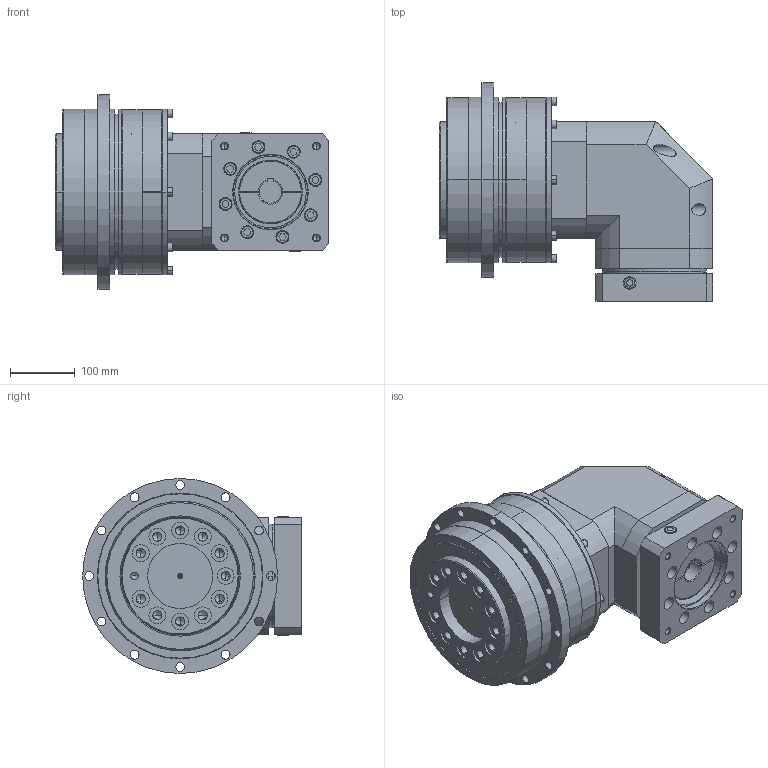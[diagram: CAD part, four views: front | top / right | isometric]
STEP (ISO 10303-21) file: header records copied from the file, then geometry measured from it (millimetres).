
FILE_DESCRIPTION (( 'STEP AP214' ), '1' );
FILE_NAME ('EVT255-L2-P2 35-114.3-200-M12.STEP', '2021-08-11T07:31:11', ( 'Admin' ), ( '' ), 'SwSTEP 2.0', 'SolidWorks 2018', '' );
FILE_SCHEMA (( 'AUTOMOTIVE_DESIGN' ));
Length unit declared in the file: millimetre
Products named in the file (35): EVT255-L2-35-114.3-200-M12(入力带键槽)_11; EVT255-L2-35-114.3-200-M12(入力带键槽)_20; EVT255-L2-35-114.3-200-M12(入力带键槽)_9; EVT255-L2-35-114.3-200-M12(入力带键槽)_8; EVT255-L2-35-114.3-200-M12(入力带键槽)_21; EVT255-L2-35-114.3-200-M12(入力带键槽)_22; EVT255-L2-35-114.3-200-M12(入力带键槽)_29; EVT255-L2-35-114.3-200-M12(入力带键槽)_33; EVT255-L2-35-114.3-200-M12(入力带键槽)_30; EVT255-L2-35-114.3-200-M12(入力带键槽)_32; EVT255-L2-35-114.3-200-M12(入力带键槽)_2; EVT255-L2-35-114.3-200-M12(入力带键槽)_14; EVT255-L2-35-114.3-200-M12(入力带键槽)_5; EVT255-L2-35-114.3-200-M12(入力带键槽)_4; EVT255-L2-35-114.3-200-M12(入力带键槽)_27; EVT255-L2-35-114.3-200-M12(入力带键槽)_7; EVT255-L2-35-114.3-200-M12(入力带键槽)_10; EVT255-L2-35-114.3-200-M12(入力带键槽)_17; EVT255-L2-35-114.3-200-M12(入力带键槽)_3; EVT255-L2-35-114.3-200-M12(入力带键槽)_24; EVT255-L2-35-114.3-200-M12(入力带键槽)_12; EVT255-L2-35-114.3-200-M12(入力带键槽)_25; EVT255-L2-35-114.3-200-M12(入力带键槽); EVT255-L2-35-114.3-200-M12(入力带键槽)_28; EVT255-L2-35-114.3-200-M12(入力带键槽)_34; EVT255-L2-35-114.3-200-M12(入力带键槽)_19; EVT255-L2-35-114.3-200-M12(入力带键槽)_26; EVT255-L2-35-114.3-200-M12(入力带键槽)_31; EVT255-L2-35-114.3-200-M12(入力带键槽)_18; EVT255-L2-35-114.3-200-M12(入力带键槽)_23; EVT255-L2-P2 35-114.3-200-M12; EVT255-L2-35-114.3-200-M12(入力带键槽)_15; EVT255-L2-35-114.3-200-M12(入力带键槽)_13; EVT255-L2-35-114.3-200-M12(入力带键槽)_6; EVT255-L2-35-114.3-200-M12(入力带键槽)_16
Assembly tree (34 placements, depth 2):
  EVT255-L2-P2 35-114.3-200-M12
    EVT255-L2-35-114.3-200-M12(入力带键槽)_12
    EVT255-L2-35-114.3-200-M12(入力带键槽)_15
    EVT255-L2-35-114.3-200-M12(入力带键槽)_14
    EVT255-L2-35-114.3-200-M12(入力带键槽)_32
    EVT255-L2-35-114.3-200-M12(入力带键槽)_6
    EVT255-L2-35-114.3-200-M12(入力带键槽)_19
    EVT255-L2-35-114.3-200-M12(入力带键槽)
    EVT255-L2-35-114.3-200-M12(入力带键槽)_24
    EVT255-L2-35-114.3-200-M12(入力带键槽)_29
    EVT255-L2-35-114.3-200-M12(入力带键槽)_8
    EVT255-L2-35-114.3-200-M12(入力带键槽)_30
    EVT255-L2-35-114.3-200-M12(入力带键槽)_28
    EVT255-L2-35-114.3-200-M12(入力带键槽)_21
    EVT255-L2-35-114.3-200-M12(入力带键槽)_33
    EVT255-L2-35-114.3-200-M12(入力带键槽)_18
    EVT255-L2-35-114.3-200-M12(入力带键槽)_4
    EVT255-L2-35-114.3-200-M12(入力带键槽)_2
    EVT255-L2-35-114.3-200-M12(入力带键槽)_16
    EVT255-L2-35-114.3-200-M12(入力带键槽)_10
    EVT255-L2-35-114.3-200-M12(入力带键槽)_20
    EVT255-L2-35-114.3-200-M12(入力带键槽)_11
    EVT255-L2-35-114.3-200-M12(入力带键槽)_31
    EVT255-L2-35-114.3-200-M12(入力带键槽)_34
    EVT255-L2-35-114.3-200-M12(入力带键槽)_25
    EVT255-L2-35-114.3-200-M12(入力带键槽)_22
    EVT255-L2-35-114.3-200-M12(入力带键槽)_13
    EVT255-L2-35-114.3-200-M12(入力带键槽)_23
    EVT255-L2-35-114.3-200-M12(入力带键槽)_26
    EVT255-L2-35-114.3-200-M12(入力带键槽)_27
    EVT255-L2-35-114.3-200-M12(入力带键槽)_9
    EVT255-L2-35-114.3-200-M12(入力带键槽)_3
    EVT255-L2-35-114.3-200-M12(入力带键槽)_17
    EVT255-L2-35-114.3-200-M12(入力带键槽)_7
    EVT255-L2-35-114.3-200-M12(入力带键槽)_5
Bounding box: 421.5 x 336.5 x 300 mm (x, y, z)
Volume: 17180395 mm3; surface area: 1160459.3 mm2
Topology: 34 solids, 34 shells, 875 faces, 2096 edges, 1356 vertices
Faces by surface type: cylinder 351, plane 340, cone 93, bspline 91
Entity records: 31292 total; most frequent: CARTESIAN_POINT 9216, DIRECTION 4496, ORIENTED_EDGE 4124, EDGE_CURVE 2062, AXIS2_PLACEMENT_3D 1752, VERTEX_POINT 1356, EDGE_LOOP 1064, VECTOR 992
